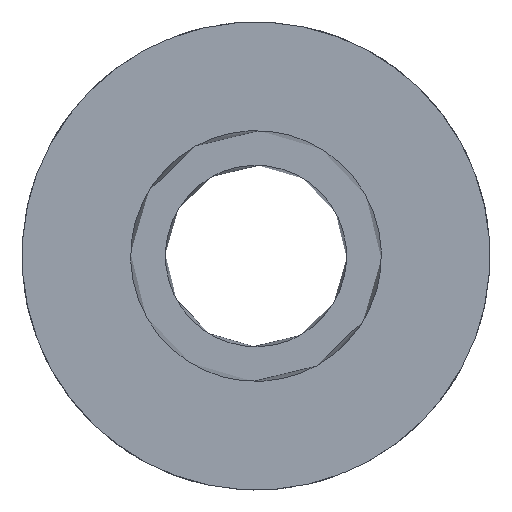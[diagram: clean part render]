
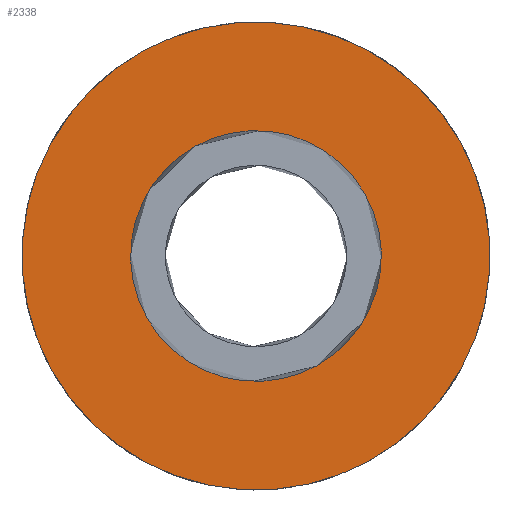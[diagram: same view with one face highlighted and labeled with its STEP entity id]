
A CAD part, left-side view. The second image highlights one B-rep face of the part: STEP entity #2338.
In plain terms, the highlighted planar face has unit normal (-1, 0, 0).
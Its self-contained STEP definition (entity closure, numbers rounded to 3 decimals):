
#356 = CARTESIAN_POINT ( 'NONE',  ( -18., 84.171, -137.959 ) ) ;
#384 = CARTESIAN_POINT ( 'NONE',  ( -18., 81.706, -136.612 ) ) ;
#389 = CARTESIAN_POINT ( 'NONE',  ( -18., 78.93, -135.938 ) ) ;
#414 = CARTESIAN_POINT ( 'NONE',  ( -18., 76.122, -136.004 ) ) ;
#426 = CARTESIAN_POINT ( 'NONE',  ( -18., 73.315, -136.071 ) ) ;
#443 = CARTESIAN_POINT ( 'NONE',  ( -18., 68.829, -166.041 ) ) ;
#444 = CARTESIAN_POINT ( 'NONE',  ( -18., 71.294, -167.388 ) ) ;
#445 = CARTESIAN_POINT ( 'NONE',  ( -18., 74.07, -168.062 ) ) ;
#446 = CARTESIAN_POINT ( 'NONE',  ( -18., 76.878, -167.996 ) ) ;
#447 = CARTESIAN_POINT ( 'NONE',  ( -18., 79.685, -167.929 ) ) ;
#448 = CARTESIAN_POINT ( 'NONE',  ( -18., 82.426, -167.125 ) ) ;
#449 = CARTESIAN_POINT ( 'NONE',  ( -18., 84.825, -165.664 ) ) ;
#450 = CARTESIAN_POINT ( 'NONE',  ( -18., 87.223, -164.202 ) ) ;
#451 = CARTESIAN_POINT ( 'NONE',  ( -18., 89.195, -162.136 ) ) ;
#452 = CARTESIAN_POINT ( 'NONE',  ( -18., 90.541, -159.671 ) ) ;
#453 = CARTESIAN_POINT ( 'NONE',  ( -18., 91.888, -157.206 ) ) ;
#454 = CARTESIAN_POINT ( 'NONE',  ( -18., 92.562, -154.43 ) ) ;
#455 = CARTESIAN_POINT ( 'NONE',  ( -18., 92.496, -151.622 ) ) ;
#456 = CARTESIAN_POINT ( 'NONE',  ( -18., 92.429, -148.815 ) ) ;
#457 = CARTESIAN_POINT ( 'NONE',  ( -18., 91.625, -146.074 ) ) ;
#458 = CARTESIAN_POINT ( 'NONE',  ( -18., 90.164, -143.675 ) ) ;
#459 = CARTESIAN_POINT ( 'NONE',  ( -18., 88.702, -141.277 ) ) ;
#460 = CARTESIAN_POINT ( 'NONE',  ( -18., 86.636, -139.305 ) ) ;
#463 = CARTESIAN_POINT ( 'NONE',  ( -18., 80.611, -144.475 ) ) ;
#464 = CARTESIAN_POINT ( 'NONE',  ( -18., 70.574, -136.875 ) ) ;
#465 = CARTESIAN_POINT ( 'NONE',  ( -18., 79.29, -143.754 ) ) ;
#466 = CARTESIAN_POINT ( 'NONE',  ( -18., 77.802, -143.392 ) ) ;
#467 = CARTESIAN_POINT ( 'NONE',  ( -18., 76.298, -143.428 ) ) ;
#468 = CARTESIAN_POINT ( 'NONE',  ( -18., 74.793, -143.463 ) ) ;
#469 = CARTESIAN_POINT ( 'NONE',  ( -18., 73.324, -143.894 ) ) ;
#470 = CARTESIAN_POINT ( 'NONE',  ( -18., 72.039, -144.678 ) ) ;
#471 = CARTESIAN_POINT ( 'NONE',  ( -18., 70.753, -145.461 ) ) ;
#472 = CARTESIAN_POINT ( 'NONE',  ( -18., 69.697, -146.568 ) ) ;
#473 = CARTESIAN_POINT ( 'NONE',  ( -18., 68.975, -147.889 ) ) ;
#474 = CARTESIAN_POINT ( 'NONE',  ( -18., 68.254, -149.21 ) ) ;
#475 = CARTESIAN_POINT ( 'NONE',  ( -18., 67.892, -150.698 ) ) ;
#476 = CARTESIAN_POINT ( 'NONE',  ( -18., 67.928, -152.202 ) ) ;
#477 = CARTESIAN_POINT ( 'NONE',  ( -18., 67.963, -153.707 ) ) ;
#478 = CARTESIAN_POINT ( 'NONE',  ( -18., 68.394, -155.176 ) ) ;
#479 = CARTESIAN_POINT ( 'NONE',  ( -18., 69.178, -156.461 ) ) ;
#480 = CARTESIAN_POINT ( 'NONE',  ( -18., 69.961, -157.747 ) ) ;
#481 = CARTESIAN_POINT ( 'NONE',  ( -18., 71.068, -158.803 ) ) ;
#484 = CARTESIAN_POINT ( 'NONE',  ( -18., 84.171, -137.959 ) ) ;
#490 = CARTESIAN_POINT ( 'NONE',  ( -18., 68.175, -138.336 ) ) ;
#501 = CARTESIAN_POINT ( 'NONE',  ( -18., 65.777, -139.798 ) ) ;
#505 = CARTESIAN_POINT ( 'NONE',  ( -18., 72.389, -159.525 ) ) ;
#538 = CARTESIAN_POINT ( 'NONE',  ( -18., 63.805, -141.864 ) ) ;
#542 = CARTESIAN_POINT ( 'NONE',  ( -18., 62.459, -144.329 ) ) ;
#546 = CARTESIAN_POINT ( 'NONE',  ( -18., 61.112, -146.794 ) ) ;
#552 = CARTESIAN_POINT ( 'NONE',  ( -18., 60.438, -149.57 ) ) ;
#580 = CARTESIAN_POINT ( 'NONE',  ( -18., 60.504, -152.378 ) ) ;
#582 = CARTESIAN_POINT ( 'NONE',  ( -18., 60.571, -155.185 ) ) ;
#587 = CARTESIAN_POINT ( 'NONE',  ( -18., 61.375, -157.926 ) ) ;
#625 = CARTESIAN_POINT ( 'NONE',  ( -18., 62.836, -160.325 ) ) ;
#653 = CARTESIAN_POINT ( 'NONE',  ( -18., 64.298, -162.723 ) ) ;
#654 = CARTESIAN_POINT ( 'NONE',  ( -18., 66.364, -164.695 ) ) ;
#790 = CARTESIAN_POINT ( 'NONE',  ( -18., 80.611, -144.475 ) ) ;
#797 = VERTEX_POINT ( 'NONE', #790 ) ;
#843 = VERTEX_POINT ( 'NONE', #907 ) ;
#898 = CARTESIAN_POINT ( 'NONE',  ( -18., 68.829, -166.041 ) ) ;
#907 = CARTESIAN_POINT ( 'NONE',  ( -18., 72.389, -159.525 ) ) ;
#927 = VERTEX_POINT ( 'NONE', #1027 ) ;
#941 = CARTESIAN_POINT ( 'NONE',  ( -18., 72.389, -159.525 ) ) ;
#943 = CARTESIAN_POINT ( 'NONE',  ( -18., 73.71, -160.246 ) ) ;
#948 = CARTESIAN_POINT ( 'NONE',  ( -18., 75.198, -160.608 ) ) ;
#961 = CARTESIAN_POINT ( 'NONE',  ( -18., 76.702, -160.572 ) ) ;
#962 = CARTESIAN_POINT ( 'NONE',  ( -18., 78.207, -160.537 ) ) ;
#963 = CARTESIAN_POINT ( 'NONE',  ( -18., 79.676, -160.106 ) ) ;
#965 = CARTESIAN_POINT ( 'NONE',  ( -18., 80.961, -159.322 ) ) ;
#968 = CARTESIAN_POINT ( 'NONE',  ( -18., 82.247, -158.539 ) ) ;
#969 = CARTESIAN_POINT ( 'NONE',  ( -18., 83.303, -157.432 ) ) ;
#971 = CARTESIAN_POINT ( 'NONE',  ( -18., 84.025, -156.111 ) ) ;
#977 = CARTESIAN_POINT ( 'NONE',  ( -18., 84.746, -154.79 ) ) ;
#979 = CARTESIAN_POINT ( 'NONE',  ( -18., 85.108, -153.302 ) ) ;
#991 = CARTESIAN_POINT ( 'NONE',  ( -18., 85.072, -151.798 ) ) ;
#992 = CARTESIAN_POINT ( 'NONE',  ( -18., 85.037, -150.293 ) ) ;
#995 = CARTESIAN_POINT ( 'NONE',  ( -18., 84.606, -148.824 ) ) ;
#996 = VERTEX_POINT ( 'NONE', #1014 ) ;
#997 = CARTESIAN_POINT ( 'NONE',  ( -18., 83.822, -147.539 ) ) ;
#1000 = CARTESIAN_POINT ( 'NONE',  ( -18., 83.039, -146.253 ) ) ;
#1014 = CARTESIAN_POINT ( 'NONE',  ( -18., 84.171, -137.959 ) ) ;
#1017 = CARTESIAN_POINT ( 'NONE',  ( -18., 81.932, -145.197 ) ) ;
#1027 = CARTESIAN_POINT ( 'NONE',  ( -18., 68.829, -166.041 ) ) ;
#1069 = CARTESIAN_POINT ( 'NONE',  ( -18., 80.611, -144.475 ) ) ;
#1306 = EDGE_CURVE ( 'NONE', #797, #843, #1410, .T. ) ;
#1309 = EDGE_CURVE ( 'NONE', #927, #996, #1413, .T. ) ;
#1319 = AXIS2_PLACEMENT_3D ( 'NONE', #2073, #2071, #2070 ) ;
#1357 = EDGE_CURVE ( 'NONE', #843, #797, #1393, .T. ) ;
#1358 = EDGE_CURVE ( 'NONE', #996, #927, #1394, .T. ) ;
#1393 = B_SPLINE_CURVE_WITH_KNOTS ( 'NONE', 3,
 ( #505, #481, #480, #479, #478, #477, #476, #475, #474, #473, #472, #471, #470, #469, #468, #467, #466, #465, #463 ),
 .UNSPECIFIED., .F., .F.,
 ( 4, 3, 3, 3, 3, 3, 4 ),
 ( -0.025, -0.02, -0.016, -0.011, -0.007, -0.002, 0.002 ),
 .UNSPECIFIED. ) ;
#1394 = B_SPLINE_CURVE_WITH_KNOTS ( 'NONE', 3,
 ( #484, #460, #459, #458, #457, #456, #455, #454, #453, #452, #451, #450, #449, #448, #447, #446, #445, #444, #443 ),
 .UNSPECIFIED., .F., .F.,
 ( 4, 3, 3, 3, 3, 3, 4 ),
 ( 0., 0.008, 0.017, 0.025, 0.033, 0.042, 0.05 ),
 .UNSPECIFIED. ) ;
#1410 = B_SPLINE_CURVE_WITH_KNOTS ( 'NONE', 3,
 ( #1069, #1017, #1000, #997, #995, #992, #991, #979, #977, #971, #969, #968, #965, #963, #962, #961, #948, #943, #941 ),
 .UNSPECIFIED., .F., .F.,
 ( 4, 3, 3, 3, 3, 3, 4 ),
 ( -0.025, -0.02, -0.016, -0.011, -0.007, -0.002, 0.002 ),
 .UNSPECIFIED. ) ;
#1413 = B_SPLINE_CURVE_WITH_KNOTS ( 'NONE', 3,
 ( #898, #654, #653, #625, #587, #582, #580, #552, #546, #542, #538, #501, #490, #464, #426, #414, #389, #384, #356 ),
 .UNSPECIFIED., .F., .F.,
 ( 4, 3, 3, 3, 3, 3, 4 ),
 ( 0., 0.008, 0.017, 0.025, 0.033, 0.042, 0.05 ),
 .UNSPECIFIED. ) ;
#1521 = EDGE_LOOP ( 'NONE', ( #1644, #1643 ) ) ;
#1593 = ORIENTED_EDGE ( 'NONE', *, *, #1309, .T. ) ;
#1604 = FACE_OUTER_BOUND ( 'NONE', #1691, .T. ) ;
#1614 = ORIENTED_EDGE ( 'NONE', *, *, #1358, .T. ) ;
#1643 = ORIENTED_EDGE ( 'NONE', *, *, #1357, .F. ) ;
#1644 = ORIENTED_EDGE ( 'NONE', *, *, #1306, .F. ) ;
#1670 = FACE_BOUND ( 'NONE', #1521, .T. ) ;
#1691 = EDGE_LOOP ( 'NONE', ( #1593, #1614 ) ) ;
#2070 = DIRECTION ( 'NONE',  ( 0., 0., 1. ) ) ;
#2071 = DIRECTION ( 'NONE',  ( 1., 0., 0. ) ) ;
#2072 = PLANE ( 'NONE',  #1319 ) ;
#2073 = CARTESIAN_POINT ( 'NONE',  ( -18., 92.528, -168.028 ) ) ;
#2338 = ADVANCED_FACE ( 'NONE', ( #1670, #1604 ), #2072, .F. ) ;
